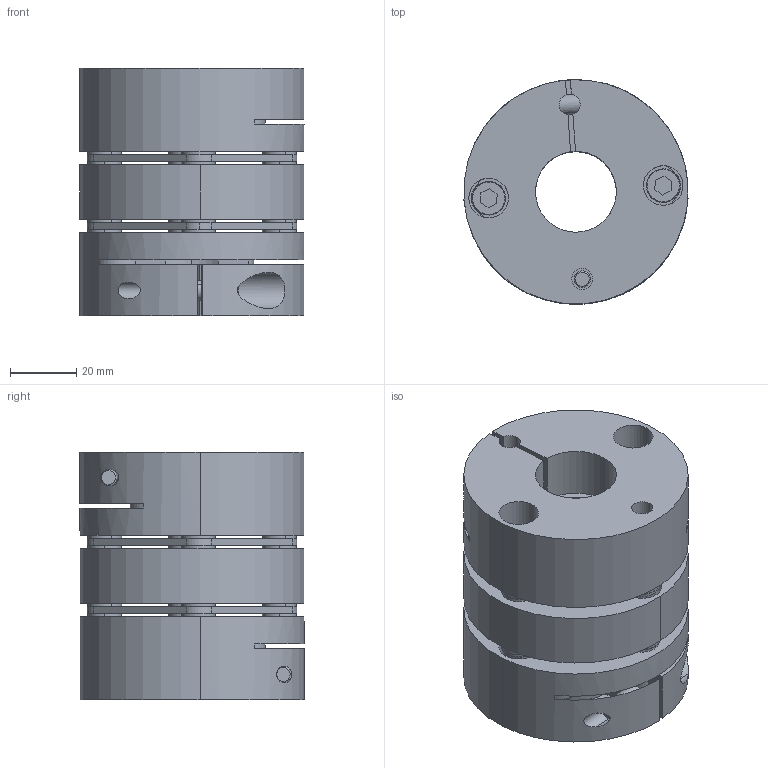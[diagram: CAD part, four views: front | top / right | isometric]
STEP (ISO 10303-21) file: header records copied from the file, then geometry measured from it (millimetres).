
FILE_DESCRIPTION (( 'STEP AP214' ), '1' );
FILE_NAME ('LC-A-060DA-24.5B-24.5B（C型）.STEP', '2019-09-19T02:08:32', ( 'admin' ), ( 'Microsoft' ), 'SwSTEP 2.0', 'SolidWorks 2016', '' );
FILE_SCHEMA (( 'AUTOMOTIVE_DESIGN' ));
Length unit declared in the file: millimetre
Products named in the file (1): LC-A-060DA-24.5B-24.5B（C型）
Bounding box: 67.85 x 67.99 x 75.1 mm (x, y, z)
Volume: 189926 mm3; surface area: 67130.4 mm2
Topology: 31 solids, 31 shells, 442 faces, 1010 edges, 652 vertices
Faces by surface type: cylinder 208, plane 174, torus 40, cone 20
Entity records: 18374 total; most frequent: CARTESIAN_POINT 2625, DIRECTION 2396, ORIENTED_EDGE 2020, EDGE_CURVE 1010, AXIS2_PLACEMENT_3D 959, VERTEX_POINT 652, EDGE_LOOP 558, CIRCLE 516
